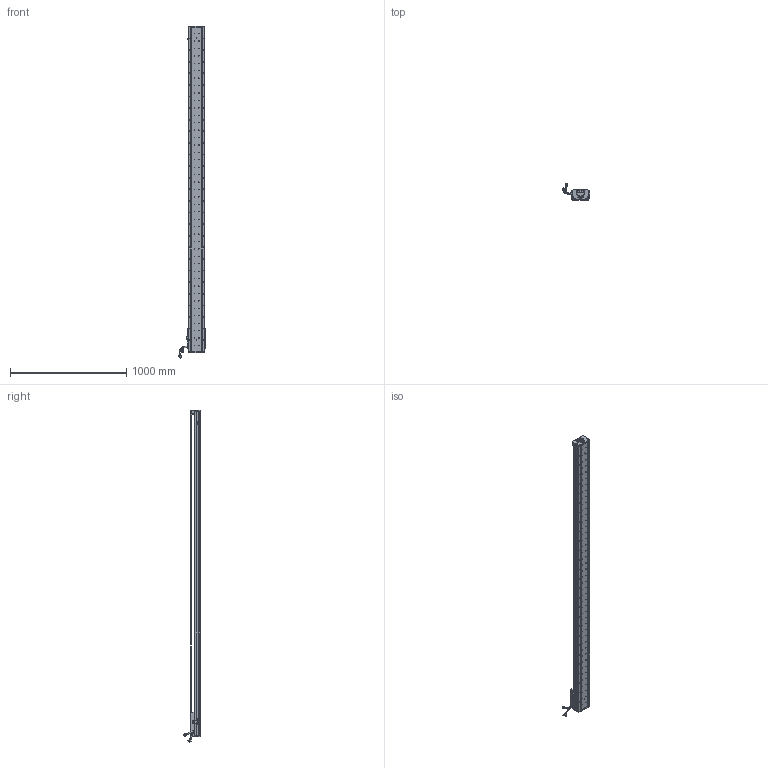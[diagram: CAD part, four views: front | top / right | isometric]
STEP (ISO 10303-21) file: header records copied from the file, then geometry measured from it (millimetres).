
FILE_DESCRIPTION (( 'STEP AP203' ), '1' );
FILE_NAME ('Z2-RY140D-1-L500-B-K.SLDASM_2550.step', '2021-05-17T07:50:11', ( '盈信电脑' ), ( '东莞市道滘镇水果街19号' ), 'SwSTEP 2.0', 'SolidWorks 2016', '' );
FILE_SCHEMA (( 'CONFIG_CONTROL_DESIGN' ));
Length unit declared in the file: millimetre
Products named in the file (36): Z2-RY140-L500詩湍100mm遵_2550; Z-140詩湍傷裔啣; Z-RY140詩湍狟揤裔; COVER-Part-1; SCALE-Part-1; Z2-RY140-L500直线电机模组底座_2550; Z2-RY140D-1-L500-B-K.SLDASM_2550; SHIELDPLATE; LABEL; SCALE; SCREW-M1.6-1; HOLDER0; 140雄赽晤鎢ん堤盄; Z-RY140感应器672光电感应片; 140-Z-臏賑輸盄裔(21遴); SEAL-Part-1; 榋妏寠巭燃_暯_M2_2; Z2-RY140圉猾敕臏賑輸(21遴); HARNESS; Z-RY140詩湍奻揤裔; 覜茼ん672; SCREW-M1.6; LABEL-Part-1; 140蚥薯蝶輸; COVER; SCREW-M1.7; PBU_SHEET; 080黍杅芛假蚾釱21遴; SCREW-M1.6-3; HARNESS-Part-2; PSLH080_PSLF2; SCREW-M1.7-1; HARNESS-Part-1; SCALE-Part-2; SCREW-M1.6-2; SEAL
Assembly tree (41 placements, depth 4):
  Z2-RY140D-1-L500-B-K.SLDASM_2550
    Z2-RY140-L500直线电机模组底座_2550
    Z-RY140感应器672光电感应片
    Z2-RY140圉猾敕臏賑輸(21遴)
    覜茼ん672  x3
    Z2-RY140-L500詩湍100mm遵_2550
    PSLH080_PSLF2
      SCALE
        SCALE-Part-1
        SCALE-Part-2
      HARNESS
        HARNESS-Part-1
        HARNESS-Part-2
      LABEL
        LABEL-Part-1
      COVER
        COVER-Part-1
      SEAL
        SEAL-Part-1
      榋妏寠巭燃_暯_M2_2
      SHIELDPLATE
      SCREW-M1.7
      SCREW-M1.7-1
      PBU_SHEET
      SCREW-M1.6
      SCREW-M1.6-1
      SCREW-M1.6-2
      SCREW-M1.6-3
      HOLDER0
    080黍杅芛假蚾釱21遴
    140-Z-臏賑輸盄裔(21遴)
    Z-140詩湍傷裔啣  x2
    Z-RY140詩湍狟揤裔  x2
    Z-RY140詩湍奻揤裔  x2
    140蚥薯蝶輸  x2
    140雄赽晤鎢ん堤盄
Bounding box: 239.79 x 143.77 x 2860.87 mm (x, y, z)
Volume: 8910488.8 mm3; surface area: 2340784.3 mm2
Topology: 36 solids, 36 shells, 4208 faces, 11472 edges, 7267 vertices
Faces by surface type: cylinder 2286, plane 1388, cone 402, torus 79, bspline 53
Entity records: 134356 total; most frequent: CARTESIAN_POINT 38467, ORIENTED_EDGE 19848, DIRECTION 18236, EDGE_CURVE 9924, AXIS2_PLACEMENT_3D 6784, VERTEX_POINT 6435, LINE 4668, VECTOR 4668
